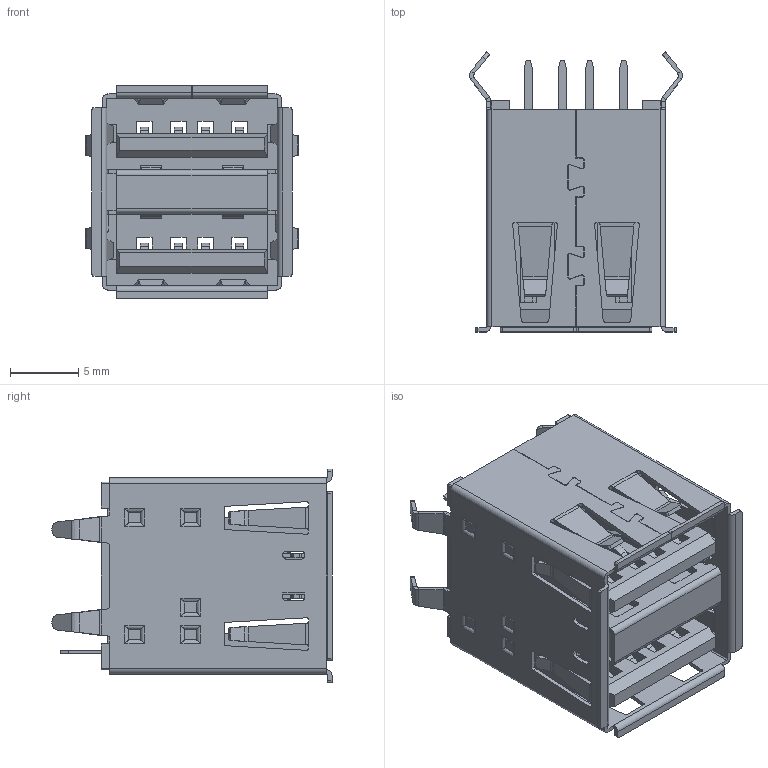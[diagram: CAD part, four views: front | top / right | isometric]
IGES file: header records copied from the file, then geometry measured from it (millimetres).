
Global section: file name: Filename.iges; native system: Open CASCADE 7.3; preprocessor: Open CASCADE IGES processor 7.3; date: 20201209.121357; units: millimetre
Bounding box: 15.6 x 20.5 x 15.65 mm (x, y, z)
Surface area: 4848.7 mm2 (no closed solid volume)
Topology: 0 solids, 0 shells, 1281 faces, 6932 edges, 6928 vertices
Faces by surface type: plane 789, revolution 412, bspline 80
